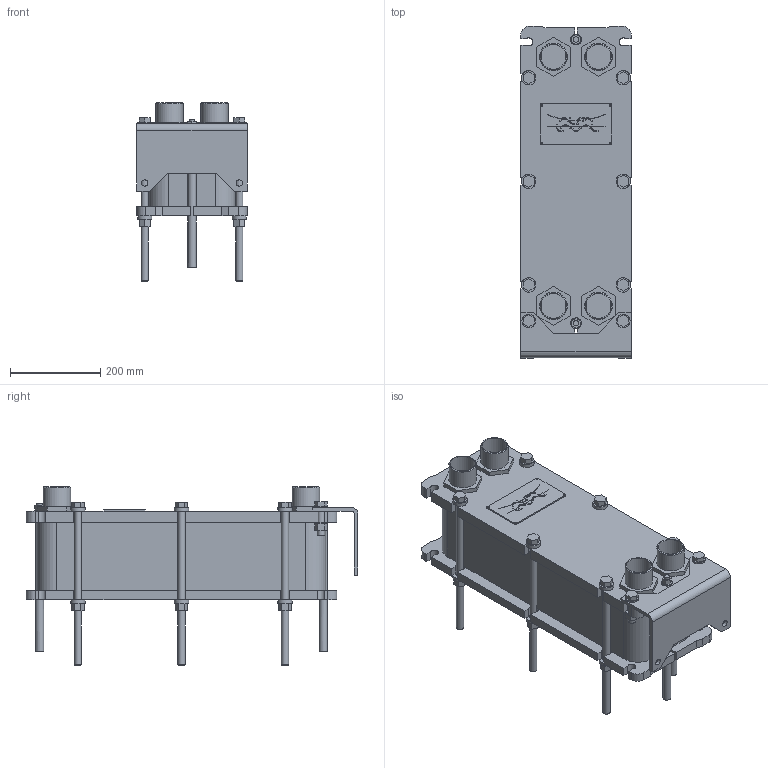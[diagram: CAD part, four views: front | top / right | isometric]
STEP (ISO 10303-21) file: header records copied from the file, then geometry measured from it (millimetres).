
FILE_DESCRIPTION((''),'2;1');
FILE_NAME('C:\temp\T5_FG_LC330_02_Rev0.stp','2009-09-07T15:58:39',('CNSHFLU'),(''),'Autodesk Inventor 2008','Autodesk Inventor 2008','');
FILE_SCHEMA(('AUTOMOTIVE_DESIGN { 1 2 10303 214 0 1 1 1 }'));
Length unit declared in the file: millimetre
Products named in the file (1): T5
Bounding box: 245 x 737 x 396 mm (x, y, z)
Volume: 25410079.2 mm3; surface area: 1238226 mm2
Topology: 1 solids, 1 shells, 834 faces, 2272 edges, 1493 vertices
Faces by surface type: plane 605, cylinder 218, cone 11
Full cylindrical faces by diameter (mm): 3.506 x4, 12 x4, 14 x2, 16 x16, 18 x2, 24 x2, 30 x4, 32 x12, 55 x3, 55.003 x1, 56 x4, 61 x4
Entity records: 25763 total; most frequent: CARTESIAN_POINT 4462, ORIENTED_EDGE 4336, DIRECTION 4333, EDGE_CURVE 2168, VECTOR 1673, LINE 1673, VERTEX_POINT 1459, AXIS2_PLACEMENT_3D 1330
